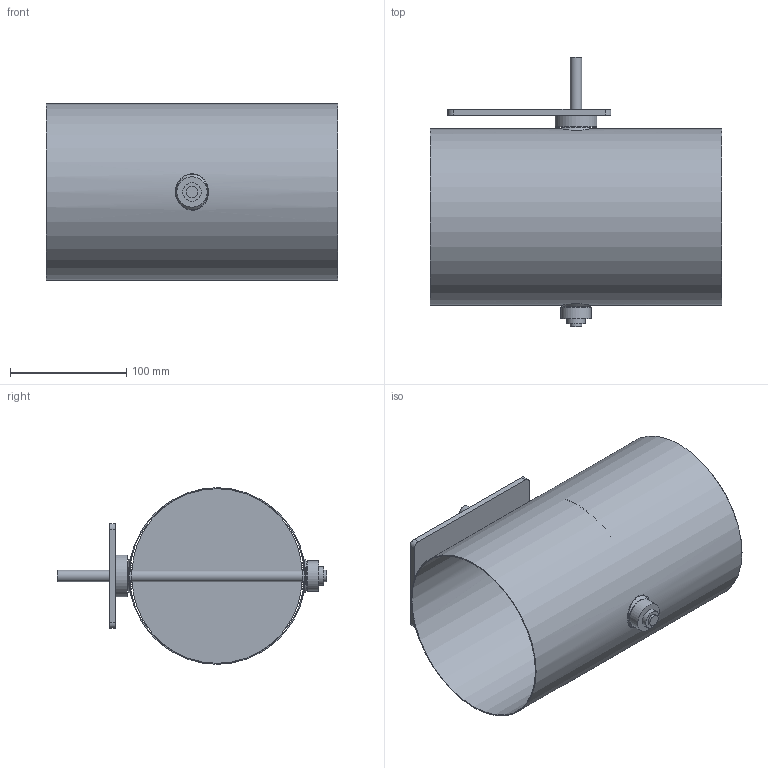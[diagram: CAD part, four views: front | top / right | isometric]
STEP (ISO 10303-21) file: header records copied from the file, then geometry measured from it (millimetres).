
FILE_DESCRIPTION(/* description */ (''),/* implementation_level */ '2;1');
FILE_NAME(/* name */ 'AA124-80B__150_L250_Belimo_Typ_NM.stp',/* time_stamp */ '2017-12-06T12:57:40+01:00',/* author */ (''),/* organization */ (''),/* preprocessor_version */ 'ST-DEVELOPER v11',/* originating_system */ 'SIEMENS UGS NX 6.0',/* authorisation */ '');
FILE_SCHEMA (('CONFIG_CONTROL_DESIGN'));
Length unit declared in the file: millimetre
Products named in the file (1): gars18E2j1yf
Bounding box: 250 x 231 x 151.6 mm (x, y, z)
Volume: 209799.6 mm3; surface area: 316855 mm2
Topology: 8 solids, 8 shells, 66 faces, 142 edges, 98 vertices
Faces by surface type: plane 28, cylinder 26, cone 4, bspline 4, torus 4
Full cylindrical faces by diameter (mm): 4.1 x4, 10 x3, 15 x3, 15.85 x2, 16 x2, 24 x2, 26 x1, 36 x1, 150 x1, 151.6 x1
Entity records: 2188 total; most frequent: CARTESIAN_POINT 835, DIRECTION 270, ORIENTED_EDGE 184, EDGE_LOOP 128, AXIS2_PLACEMENT_3D 123, FACE_BOUND 114, EDGE_CURVE 92, VERTEX_POINT 80
